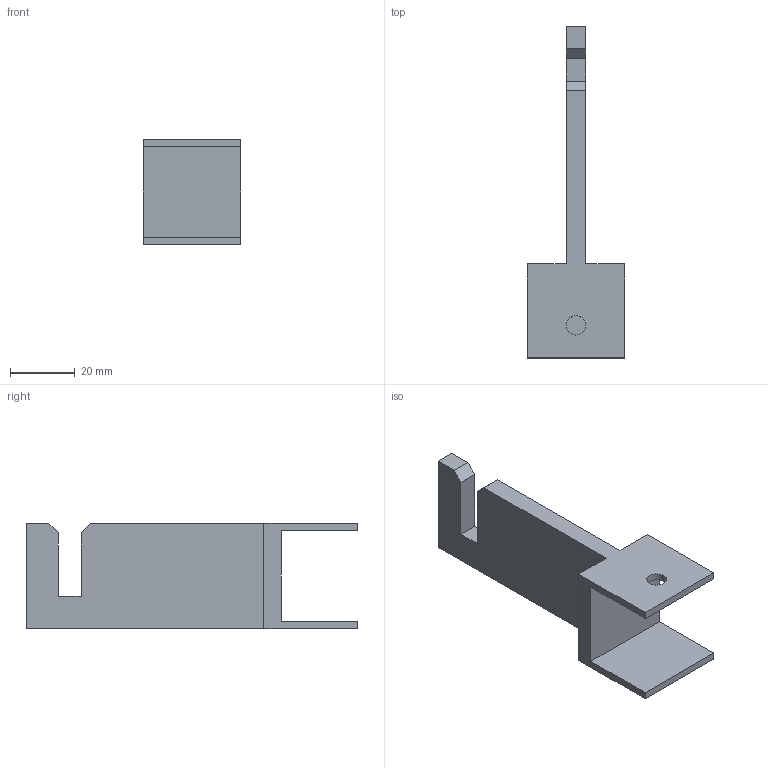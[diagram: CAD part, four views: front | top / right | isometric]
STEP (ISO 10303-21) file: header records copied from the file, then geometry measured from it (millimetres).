
FILE_DESCRIPTION (( 'STEP AP214' ), '1' );
FILE_NAME ('JB-552BL.step', '2023-12-26T01:15:29', ( 'catia' ), ( 'HP Inc.' ), 'SwSTEP 2.0', 'SolidWorks 2021', '' );
FILE_SCHEMA (( 'AUTOMOTIVE_DESIGN' ));
Length unit declared in the file: millimetre
Products named in the file (1): JB-552BL
Bounding box: 30 x 102.4 x 32.6 mm (x, y, z)
Volume: 21742.8 mm3; surface area: 11250.6 mm2
Topology: 1 solids, 1 shells, 22 faces, 60 edges, 40 vertices
Faces by surface type: plane 20, cylinder 2
Entity records: 726 total; most frequent: CARTESIAN_POINT 123, ORIENTED_EDGE 120, DIRECTION 110, EDGE_CURVE 60, LINE 56, VECTOR 56, VERTEX_POINT 40, AXIS2_PLACEMENT_3D 27
